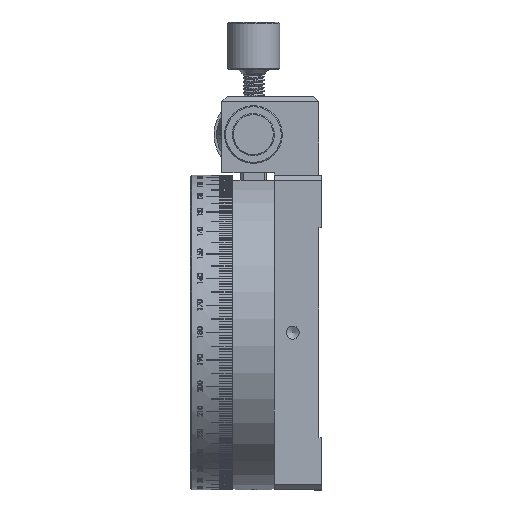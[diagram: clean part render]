
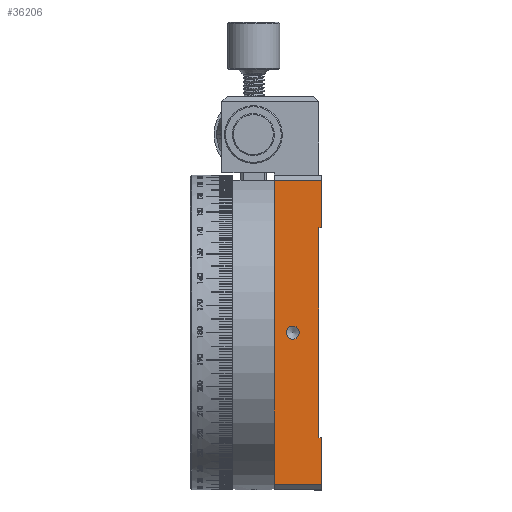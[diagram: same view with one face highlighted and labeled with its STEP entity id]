
A CAD part, left-side view. The second image highlights one B-rep face of the part: STEP entity #36206.
In plain terms, the highlighted planar face has unit normal (-1, 0, 0).
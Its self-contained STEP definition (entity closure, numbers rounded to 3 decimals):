
#2809 = DIRECTION ( 'NONE',  ( 0., 0., 1. ) ) ;
#4578 = EDGE_LOOP ( 'NONE', ( #68226, #64591, #113084, #131081, #216901, #136799, #108086, #31387, #152037 ) ) ;
#6624 = CARTESIAN_POINT ( 'NONE',  ( -5.161, 62.234, 18.526 ) ) ;
#7014 = DIRECTION ( 'NONE',  ( 0., -1., 0. ) ) ;
#10363 = LINE ( 'NONE', #118578, #40747 ) ;
#11937 = EDGE_CURVE ( 'NONE', #182609, #36485, #92127, .T. ) ;
#21090 = CARTESIAN_POINT ( 'NONE',  ( -5.161, 67.234, 38.526 ) ) ;
#26740 = LINE ( 'NONE', #6624, #59764 ) ;
#27147 = CARTESIAN_POINT ( 'NONE',  ( -5.161, 61.734, 9.526 ) ) ;
#27717 = DIRECTION ( 'NONE',  ( -1., 0., 0. ) ) ;
#30043 = AXIS2_PLACEMENT_3D ( 'NONE', #21090, #27717, #43430 ) ;
#31387 = ORIENTED_EDGE ( 'NONE', *, *, #11937, .F. ) ;
#36206 = ADVANCED_FACE ( 'NONE', ( #154464, #189190 ), #104110, .T. ) ;
#36485 = VERTEX_POINT ( 'NONE', #142622 ) ;
#40747 = VECTOR ( 'NONE', #216395, 1000. ) ;
#43430 = DIRECTION ( 'NONE',  ( 0., -1., 0. ) ) ;
#43553 = EDGE_CURVE ( 'NONE', #103811, #186477, #207812, .T. ) ;
#48131 = LINE ( 'NONE', #27147, #81896 ) ;
#55810 = VERTEX_POINT ( 'NONE', #57733 ) ;
#57602 = CARTESIAN_POINT ( 'NONE',  ( -5.161, 61.734, 58.526 ) ) ;
#57733 = CARTESIAN_POINT ( 'NONE',  ( -5.161, 61.734, 18.526 ) ) ;
#57748 = DIRECTION ( 'NONE',  ( 0., 0., -1. ) ) ;
#57848 = CARTESIAN_POINT ( 'NONE',  ( -5.161, 70.734, 9.526 ) ) ;
#59764 = VECTOR ( 'NONE', #60360, 1000. ) ;
#60360 = DIRECTION ( 'NONE',  ( 0., 1., 0. ) ) ;
#64591 = ORIENTED_EDGE ( 'NONE', *, *, #209924, .T. ) ;
#68226 = ORIENTED_EDGE ( 'NONE', *, *, #189319, .T. ) ;
#68678 = VECTOR ( 'NONE', #193960, 1000. ) ;
#69028 = VERTEX_POINT ( 'NONE', #185523 ) ;
#76303 = DIRECTION ( 'NONE',  ( 0., 1., 0. ) ) ;
#76743 = CARTESIAN_POINT ( 'NONE',  ( -5.161, 70.734, 20.526 ) ) ;
#81896 = VECTOR ( 'NONE', #7014, 1000. ) ;
#88246 = VERTEX_POINT ( 'NONE', #198706 ) ;
#92127 = LINE ( 'NONE', #208573, #68678 ) ;
#93326 = LINE ( 'NONE', #182834, #219108 ) ;
#95321 = LINE ( 'NONE', #141236, #185282 ) ;
#101822 = VERTEX_POINT ( 'NONE', #117794 ) ;
#103811 = VERTEX_POINT ( 'NONE', #76743 ) ;
#104110 = PLANE ( 'NONE',  #159897 ) ;
#108086 = ORIENTED_EDGE ( 'NONE', *, *, #143057, .T. ) ;
#112078 = VECTOR ( 'NONE', #2809, 1000. ) ;
#113084 = ORIENTED_EDGE ( 'NONE', *, *, #117317, .F. ) ;
#117317 = EDGE_CURVE ( 'NONE', #103811, #101822, #219044, .T. ) ;
#117794 = CARTESIAN_POINT ( 'NONE',  ( -5.161, 70.734, 67.526 ) ) ;
#118578 = CARTESIAN_POINT ( 'NONE',  ( -5.161, 62.234, 58.526 ) ) ;
#118703 = CARTESIAN_POINT ( 'NONE',  ( -5.161, 61.734, 38.526 ) ) ;
#123803 = CARTESIAN_POINT ( 'NONE',  ( -5.161, 70.734, 38.526 ) ) ;
#125323 = EDGE_CURVE ( 'NONE', #182609, #216937, #10363, .T. ) ;
#125556 = EDGE_CURVE ( 'NONE', #69028, #69028, #190815, .T. ) ;
#131081 = ORIENTED_EDGE ( 'NONE', *, *, #43553, .T. ) ;
#136799 = ORIENTED_EDGE ( 'NONE', *, *, #216400, .T. ) ;
#141236 = CARTESIAN_POINT ( 'NONE',  ( -5.161, 61.734, 67.526 ) ) ;
#142622 = CARTESIAN_POINT ( 'NONE',  ( -5.161, 62.234, 18.526 ) ) ;
#143057 = EDGE_CURVE ( 'NONE', #55810, #36485, #26740, .T. ) ;
#151105 = VECTOR ( 'NONE', #57748, 1000. ) ;
#151218 = LINE ( 'NONE', #118703, #175008 ) ;
#152037 = ORIENTED_EDGE ( 'NONE', *, *, #125323, .T. ) ;
#152552 = CARTESIAN_POINT ( 'NONE',  ( -5.161, 61.734, 9.526 ) ) ;
#154464 = FACE_BOUND ( 'NONE', #171764, .T. ) ;
#159897 = AXIS2_PLACEMENT_3D ( 'NONE', #172380, #193593, #192494 ) ;
#161562 = DIRECTION ( 'NONE',  ( 0., 0., 1. ) ) ;
#171764 = EDGE_LOOP ( 'NONE', ( #190084 ) ) ;
#172380 = CARTESIAN_POINT ( 'NONE',  ( -5.161, 61.734, 38.526 ) ) ;
#175008 = VECTOR ( 'NONE', #201654, 1000. ) ;
#182609 = VERTEX_POINT ( 'NONE', #200526 ) ;
#182834 = CARTESIAN_POINT ( 'NONE',  ( -5.161, 61.734, 38.526 ) ) ;
#185282 = VECTOR ( 'NONE', #76303, 1000. ) ;
#185523 = CARTESIAN_POINT ( 'NONE',  ( -5.161, 65.984, 38.526 ) ) ;
#186477 = VERTEX_POINT ( 'NONE', #57848 ) ;
#189190 = FACE_OUTER_BOUND ( 'NONE', #4578, .T. ) ;
#189319 = EDGE_CURVE ( 'NONE', #216937, #88246, #93326, .T. ) ;
#190084 = ORIENTED_EDGE ( 'NONE', *, *, #125556, .F. ) ;
#190815 = CIRCLE ( 'NONE', #30043, 1.25 ) ;
#192494 = DIRECTION ( 'NONE',  ( 0., 0., 1. ) ) ;
#193593 = DIRECTION ( 'NONE',  ( -1., 0., 0. ) ) ;
#193960 = DIRECTION ( 'NONE',  ( 0., 0., -1. ) ) ;
#198706 = CARTESIAN_POINT ( 'NONE',  ( -5.161, 61.734, 67.526 ) ) ;
#200526 = CARTESIAN_POINT ( 'NONE',  ( -5.161, 62.234, 58.526 ) ) ;
#201654 = DIRECTION ( 'NONE',  ( 0., 0., 1. ) ) ;
#203306 = CARTESIAN_POINT ( 'NONE',  ( -5.161, 70.734, 38.526 ) ) ;
#207812 = LINE ( 'NONE', #123803, #151105 ) ;
#208573 = CARTESIAN_POINT ( 'NONE',  ( -5.161, 62.234, -67.898 ) ) ;
#209924 = EDGE_CURVE ( 'NONE', #88246, #101822, #95321, .T. ) ;
#214802 = EDGE_CURVE ( 'NONE', #186477, #217871, #48131, .T. ) ;
#216395 = DIRECTION ( 'NONE',  ( 0., -1., 0. ) ) ;
#216400 = EDGE_CURVE ( 'NONE', #217871, #55810, #151218, .T. ) ;
#216901 = ORIENTED_EDGE ( 'NONE', *, *, #214802, .T. ) ;
#216937 = VERTEX_POINT ( 'NONE', #57602 ) ;
#217871 = VERTEX_POINT ( 'NONE', #152552 ) ;
#219044 = LINE ( 'NONE', #203306, #112078 ) ;
#219108 = VECTOR ( 'NONE', #161562, 1000. ) ;
